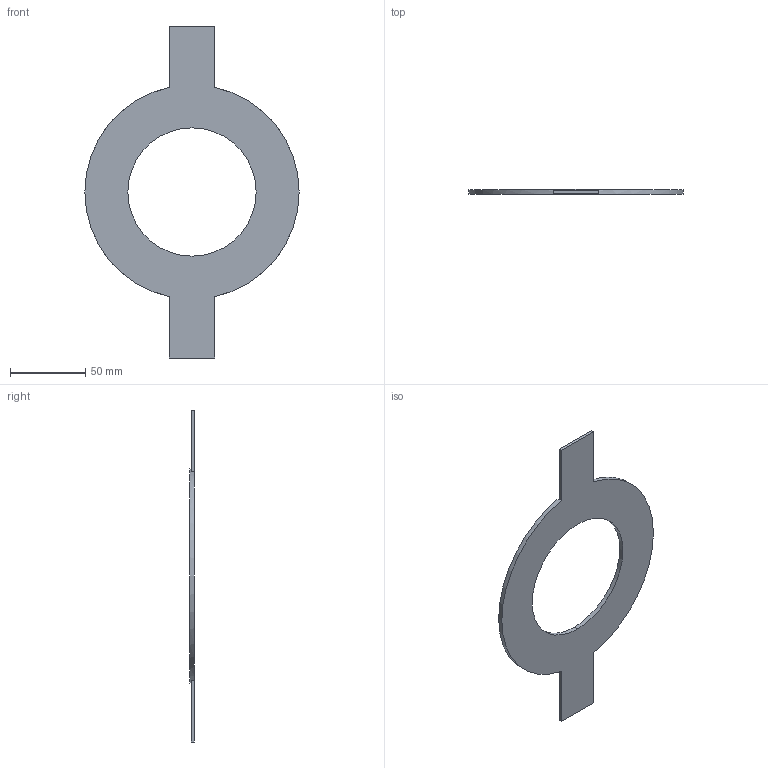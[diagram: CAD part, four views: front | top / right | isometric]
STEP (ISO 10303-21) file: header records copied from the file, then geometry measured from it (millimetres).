
FILE_DESCRIPTION (( 'STEP AP203' ), '1' );
FILE_NAME ('KP_7-110-90.step', '2011-08-08T12:04:34', ( '' ), ( '' ), 'SwSTEP 2.0', 'SolidWorks 2011', '' );
FILE_SCHEMA (( 'CONFIG_CONTROL_DESIGN' ));
Length unit declared in the file: millimetre
Products named in the file (1): KP_7-110-90
Bounding box: 142 x 3 x 220 mm (x, y, z)
Volume: 35230.6 mm3; surface area: 27531.7 mm2
Topology: 1 solids, 1 shells, 14 faces, 36 edges, 24 vertices
Faces by surface type: plane 10, cylinder 4
Entity records: 513 total; most frequent: DIRECTION 78, CARTESIAN_POINT 75, ORIENTED_EDGE 72, EDGE_CURVE 36, AXIS2_PLACEMENT_3D 27, VECTOR 24, LINE 24, VERTEX_POINT 24
